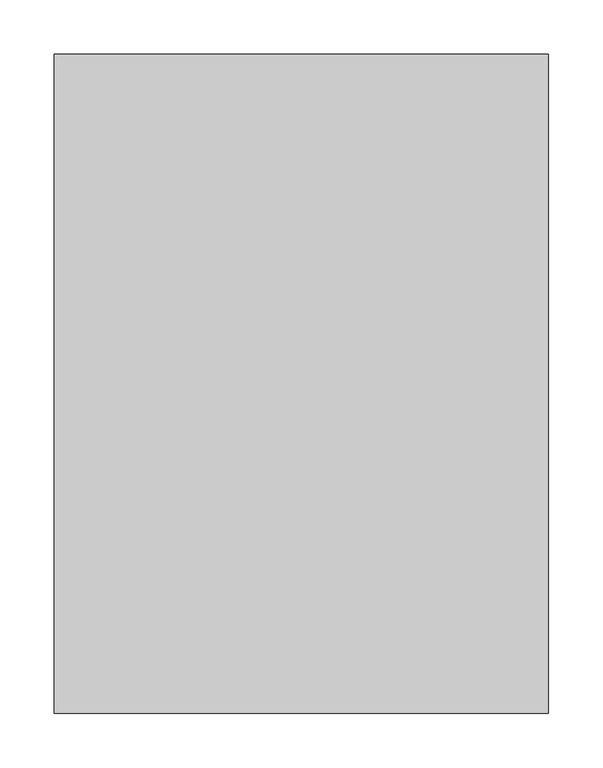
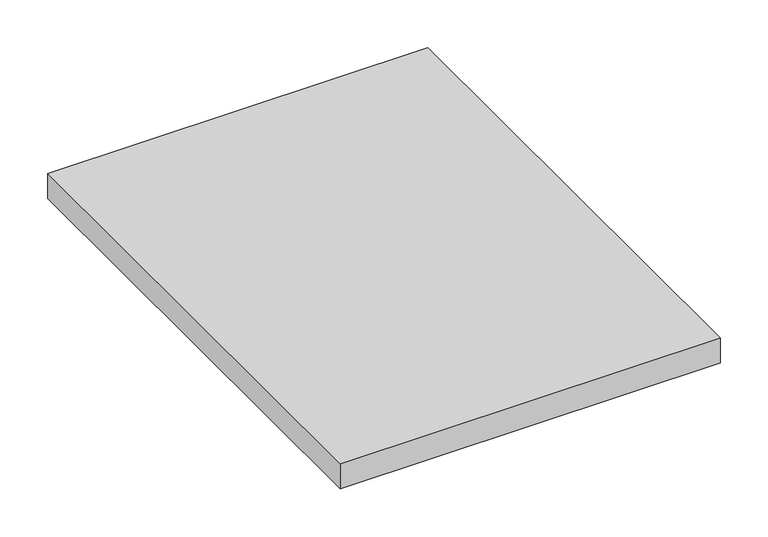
"""IFC4 building model written with IfcOpenShell, lengths in millimetres: furniture geometry, Geiger_GeigerOneCasegoods_CredenzaTopDeskHeightPlain : Veneer 18Wx 24Dx 1.25H."""

from ifc_helpers import new_model, si_unit, origin, origin_with_axes, place, context, project, spatial, polyline, outline, extrude, source, transform, mapped, element, save


def furniture_4afd6ab8(model_context):
    return source(origin(), model_context, "Body", "SweptSolid", [
        extrude(outline(polyline([(457.2, 0.0), (457.2, -609.6), (0.0, -609.6), (0.0, 0.0), (457.2, 0.0)])), origin_with_axes(), (0.0, 0.0, 1.0), 31.75),
    ])


if __name__ == "__main__":
    model = new_model("IFC4")
    model_context = context("Model", 3, world=origin())
    ifc_project = project(units=[si_unit("LENGTHUNIT", "METRE", prefix="MILLI")], contexts=[model_context])
    site = spatial("IfcSite", under=ifc_project)
    building = spatial("IfcBuilding", under=site)
    placement = place(None, origin())
    furniture_shape = furniture_4afd6ab8(model_context)
    element("IfcFurniture", 1, ObjectType="Geiger_GeigerOneCasegoods_CredenzaTopDeskHeightPlain : Veneer 18Wx 24Dx 1.25H", at=placement, inside=building, context=model_context, shape_type="MappedRepresentation", body=[
        mapped(furniture_shape, transform((0.0, 0.0, 0.0), x_axis=(1.0, 0.0, 0.0), y_axis=(0.0, 1.0, 0.0), z_axis=(0.0, 0.0, 1.0))),
    ])
    save(model, "model.ifc")
